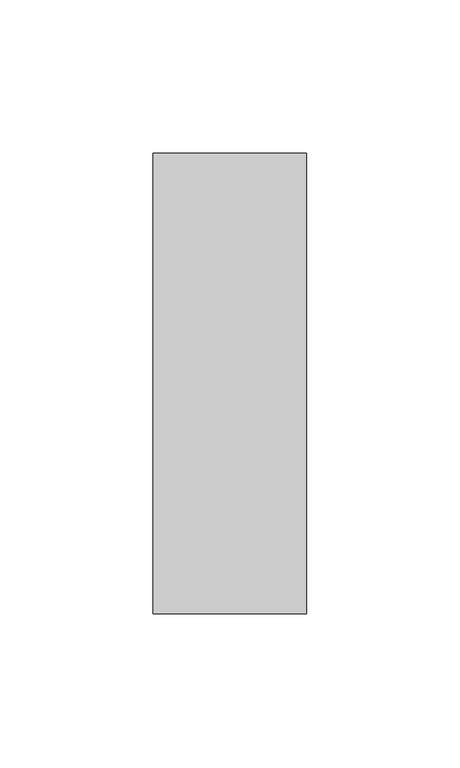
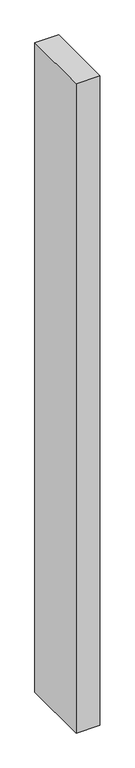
"""IFC4 building model written with IfcOpenShell, lengths in millimetres: member geometry, Прямоугольный импост : 50 x 150 мм."""

import ifcopenshell
import ifcopenshell.guid

model = None  # the IFC model being written
_history = None  # IfcOwnerHistory: only IFC2X3 demands one
_inside = {}  # id of a spatial element -> (the spatial element, [elements in it])
_under = {}  # id of a project, library or spatial element -> (it, [spatial elements below it])
_declared = {}  # id of a project -> (the project, [libraries it declares])
_typed = {}  # id of a type object -> (the type object, [elements of that type])
_made_of = {}  # id of a material, layer set ... -> (it, [elements and type objects made of it])


def new_model(schema):
    """Start an empty IFC model of exactly this schema.

    Asked for "IFC4X3", IfcOpenShell would pick the latest addendum, in which some entities
    have other attributes; the version numbers below select the first issue.
    IFC2X3 requires an IfcOwnerHistory on every rooted entity: one is made here for all.
    """
    global model, _history
    if schema == "IFC4X3":
        model = ifcopenshell.file(schema_version=(4, 3, 0, 0))
    else:
        model = ifcopenshell.file(schema=schema)
    _inside.clear()
    _under.clear()
    _declared.clear()
    _typed.clear()
    _made_of.clear()
    _history = None
    if model.schema == "IFC2X3":
        org = make("IfcOrganization", Name="unknown")
        user = make(
            "IfcPersonAndOrganization",
            ThePerson=make("IfcPerson", FamilyName="unknown"),
            TheOrganization=org,
        )
        app = make(
            "IfcApplication",
            ApplicationDeveloper=org,
            Version="unknown",
            ApplicationFullName="unknown",
            ApplicationIdentifier="unknown",
        )
        _history = make(
            "IfcOwnerHistory",
            OwningUser=user,
            OwningApplication=app,
            ChangeAction="ADDED",
            CreationDate=0,
        )
    return model


def make(cls, **values):
    """One entity of the class cls with the attributes given. An attribute that is None is left unset."""
    return model.create_entity(
        cls, **{name: value for name, value in values.items() if value is not None}
    )


def rooted(cls, **values):
    """An entity with a GlobalId (a new one), such as an element, a storey or a relation."""
    return make(cls, GlobalId=ifcopenshell.guid.new(), OwnerHistory=_history, **values)


def si_unit(unit_type, name, prefix=None):
    """IfcSIUnit, for example si_unit("LENGTHUNIT", "METRE", prefix="MILLI")."""
    return make("IfcSIUnit", UnitType=unit_type, Prefix=prefix, Name=name)


def assignment(units):
    """IfcUnitAssignment: the units of a project."""
    return None if units is None else make("IfcUnitAssignment", Units=units)


def point(xyz):
    """IfcCartesianPoint."""
    return None if xyz is None else make("IfcCartesianPoint", Coordinates=xyz)


def direction(xyz):
    """IfcDirection."""
    return None if xyz is None else make("IfcDirection", DirectionRatios=xyz)


def frame(location, z_axis=None, x_axis=None):
    """IfcAxis2Placement3D, a coordinate frame: its origin and axes. An axis left out is left unset."""
    return make(
        "IfcAxis2Placement3D",
        Location=point(location),
        Axis=direction(z_axis),
        RefDirection=direction(x_axis),
    )


def origin():
    """The frame at (0, 0, 0) with its axes left unset."""
    return frame((0.0, 0.0, 0.0))


def place(relative_to, where):
    """IfcLocalPlacement: puts the frame where relative to a parent placement (None: the world)."""
    return make(
        "IfcLocalPlacement", PlacementRelTo=relative_to, RelativePlacement=where
    )


def context(
    kind, dimensions, precision=None, world=None, true_north=None, identifier=None
):
    """IfcGeometricRepresentationContext, for example the 3D "Model" context."""
    return make(
        "IfcGeometricRepresentationContext",
        ContextIdentifier=identifier,
        ContextType=kind,
        CoordinateSpaceDimension=dimensions,
        Precision=precision,
        WorldCoordinateSystem=world,
        TrueNorth=true_north,
    )


def project(units=None, contexts=None):
    """IfcProject with its units and contexts."""
    return rooted(
        "IfcProject",
        Name="project",
        RepresentationContexts=contexts,
        UnitsInContext=assignment(units),
    )


def spatial(cls, under=None, at=None, **own):
    """A site, building, storey or space (cls), placed at a placement, below another one or the project."""
    s = rooted(cls, ObjectPlacement=at, **own)
    if under is not None:
        _under.setdefault(under.id(), (under, []))[1].append(s)
    return s


def polyline(points):
    """IfcPolyline through the points."""
    return make("IfcPolyline", Points=[point(p) for p in points])


def outline(outer, holes=None, kind="AREA"):
    """IfcArbitraryClosedProfileDef: a profile drawn as a closed curve; with holes, ...WithVoids."""
    if holes is None:
        return make("IfcArbitraryClosedProfileDef", ProfileType=kind, OuterCurve=outer)
    return make(
        "IfcArbitraryProfileDefWithVoids",
        ProfileType=kind,
        OuterCurve=outer,
        InnerCurves=holes,
    )


def extrude(swept, where, along, depth):
    """IfcExtrudedAreaSolid: the profile swept, set in the frame where, extruded along a direction by depth."""
    return make(
        "IfcExtrudedAreaSolid",
        SweptArea=swept,
        Position=where,
        ExtrudedDirection=direction(along),
        Depth=depth,
    )


def shape(context_of_items, identifier, shape_type, items):
    """IfcShapeRepresentation: the items that make up one representation, for example the "Body"."""
    return make(
        "IfcShapeRepresentation",
        ContextOfItems=context_of_items,
        RepresentationIdentifier=identifier,
        RepresentationType=shape_type,
        Items=items,
    )


def source(mapping_origin, context_of_items, identifier, shape_type, items):
    """IfcRepresentationMap: a shape defined once, which mapped items show again and again."""
    return make(
        "IfcRepresentationMap",
        MappingOrigin=mapping_origin,
        MappedRepresentation=shape(context_of_items, identifier, shape_type, items),
    )


def transform(
    local_origin,
    x_axis=None,
    y_axis=None,
    z_axis=None,
    scale=None,
    scale2=None,
    scale3=None,
    uniform=True,
):
    """IfcCartesianTransformationOperator3D, or its non-uniform kind. x_axis, y_axis, z_axis: its Axis1, 2, 3."""
    if uniform:
        return make(
            "IfcCartesianTransformationOperator3D",
            Axis1=direction(x_axis),
            Axis2=direction(y_axis),
            LocalOrigin=point(local_origin),
            Scale=scale,
            Axis3=direction(z_axis),
        )
    return make(
        "IfcCartesianTransformationOperator3DnonUniform",
        Axis1=direction(x_axis),
        Axis2=direction(y_axis),
        LocalOrigin=point(local_origin),
        Scale=scale,
        Axis3=direction(z_axis),
        Scale2=scale2,
        Scale3=scale3,
    )


def mapped(mapping_source, mapping_target):
    """IfcMappedItem: shows the shape of a source again, moved by a transform."""
    return make(
        "IfcMappedItem", MappingSource=mapping_source, MappingTarget=mapping_target
    )


def made_of(thing, what):
    """Note that an element or type object is made of a material, layer set ...; save() writes the relation."""
    if what is not None:
        _made_of.setdefault(what.id(), (what, []))[1].append(thing)
    return thing


def element(
    cls,
    number,
    at=None,
    inside=None,
    cuts=None,
    type_object=None,
    material=None,
    context=None,
    identifier="Body",
    shape_type=None,
    held_by="IfcProductDefinitionShape",
    body=None,
    shapes=None,
    **own,
):
    """One element of the class cls, such as IfcWall. Its Tag is "e" and its number.

    at: its placement. inside: the storey or other place that contains it. cuts: it is an
    opening in that element (IfcRelVoidsElement). A single representation is given by context,
    identifier, shape_type and body (its items); several are given by shapes. held_by: the class
    of the entity that holds the representations. save() writes the other relations.
    """
    e = rooted(cls, Tag="e%d" % number, ObjectPlacement=at, **own)
    if body is not None:
        shapes = [shape(context, identifier, shape_type, body)]
    if shapes is not None:
        e.Representation = make(held_by, Representations=shapes)
    if inside is not None:
        _inside.setdefault(inside.id(), (inside, []))[1].append(e)
    if cuts is not None:
        rooted(
            "IfcRelVoidsElement", RelatingBuildingElement=cuts, RelatedOpeningElement=e
        )
    if type_object is not None:
        _typed.setdefault(type_object.id(), (type_object, []))[1].append(e)
    return made_of(e, material)


def aggregate(whole, parts):
    """IfcRelAggregates: a whole, such as a stair, and the parts it consists of."""
    return rooted("IfcRelAggregates", RelatingObject=whole, RelatedObjects=parts)


def save(model, path):
    """Write the relations noted so far, then the file.

    IfcRelAggregates (storeys below a building ...), IfcRelContainedInSpatialStructure (elements
    in a storey), IfcRelDefinesByType, IfcRelAssociatesMaterial and IfcRelDeclares: one each for
    every whole, place, type object, material and project.
    """
    for whole, parts in _under.values():
        aggregate(whole, parts)
    for where, things in _inside.values():
        rooted(
            "IfcRelContainedInSpatialStructure",
            RelatedElements=things,
            RelatingStructure=where,
        )
    for kind, things in _typed.values():
        rooted("IfcRelDefinesByType", RelatedObjects=things, RelatingType=kind)
    for what, things in _made_of.values():
        rooted("IfcRelAssociatesMaterial", RelatedObjects=things, RelatingMaterial=what)
    for by, libraries in _declared.values():
        rooted("IfcRelDeclares", RelatingContext=by, RelatedDefinitions=libraries)
    model.write(path)


def member_2e31f4ef(model_context):
    return source(origin(), model_context, "Body", "SweptSolid", [
        extrude(outline(polyline([(25.0, 75.0), (25.0, -75.0), (-25.0, -75.0), (-25.0, 75.0), (25.0, 75.0)])), frame((0.0, 0.0, -1445.4785613), z_axis=(0.0, 0.0, 1.0), x_axis=(1.0, 0.0, 0.0)), (0.0, 0.0, 1.0), 1445.4785613),
    ])


if __name__ == "__main__":
    model = new_model("IFC4")
    model_context = context("Model", 3, world=origin())
    ifc_project = project(units=[si_unit("LENGTHUNIT", "METRE", prefix="MILLI")], contexts=[model_context])
    site = spatial("IfcSite", under=ifc_project)
    building = spatial("IfcBuilding", under=site)
    placement = place(None, origin())
    member_shape = member_2e31f4ef(model_context)
    element("IfcMember", 1, ObjectType="Прямоугольный импост : 50 x 150 мм", at=placement, inside=building, context=model_context, shape_type="MappedRepresentation", body=[
        mapped(member_shape, transform((0.0, 0.0, 0.0), x_axis=(1.0, 0.0, 0.0), y_axis=(0.0, 1.0, 0.0), z_axis=(0.0, 0.0, 1.0))),
    ])
    save(model, "model.ifc")
